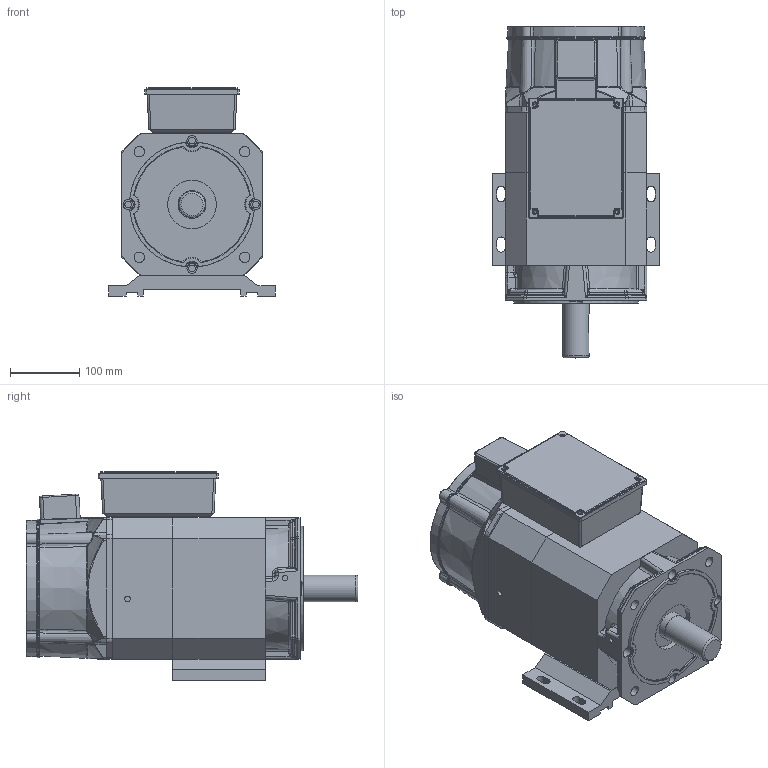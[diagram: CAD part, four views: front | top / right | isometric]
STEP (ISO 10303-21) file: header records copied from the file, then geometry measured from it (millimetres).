
FILE_DESCRIPTION(/* description */ (''),/* implementation_level */ '2;1');
FILE_NAME(/* name */ '204ZJY-4-3.7-15.stp',/* time_stamp */ '2024-01-15T16:56:32+08:00',/* author */ (''),/* organization */ (''),/* preprocessor_version */ 'ST-DEVELOPER v18.1',/* originating_system */ 'SIEMENS PLM Software NX 2000',/* authorisation */ '');
FILE_SCHEMA (('AUTOMOTIVE_DESIGN { 1 0 10303 214 3 1 1 1 }'));
Products named in the file (1): 204ZJY-4-2.2-15电机外形图
Bounding box: 240 x 478 x 300 mm (x, y, z)
Volume: 10921820.8 mm3; surface area: 1075049.2 mm2
Topology: 10 solids, 10 shells, 1906 faces, 4761 edges, 2835 vertices
Faces by surface type: cylinder 751, torus 447, plane 385, bspline 248, cone 63, sphere 12
Full cylindrical faces by diameter (mm): 4 x10, 5 x10, 6 x10, 6.5 x4, 7 x8, 7.5 x4, 8 x4, 9.5 x8, 11 x8, 13.5 x2, 14.5 x4, 15 x5, 28 x1, 38 x1, 39.8 x1, 40 x1, 70 x1, 187 x1
Entity records: 63129 total; most frequent: CARTESIAN_POINT 22071, ORIENTED_EDGE 9082, DIRECTION 7651, EDGE_CURVE 4541, AXIS2_PLACEMENT_3D 3196, VERTEX_POINT 2776, EDGE_LOOP 2167, ADVANCED_FACE 1906
